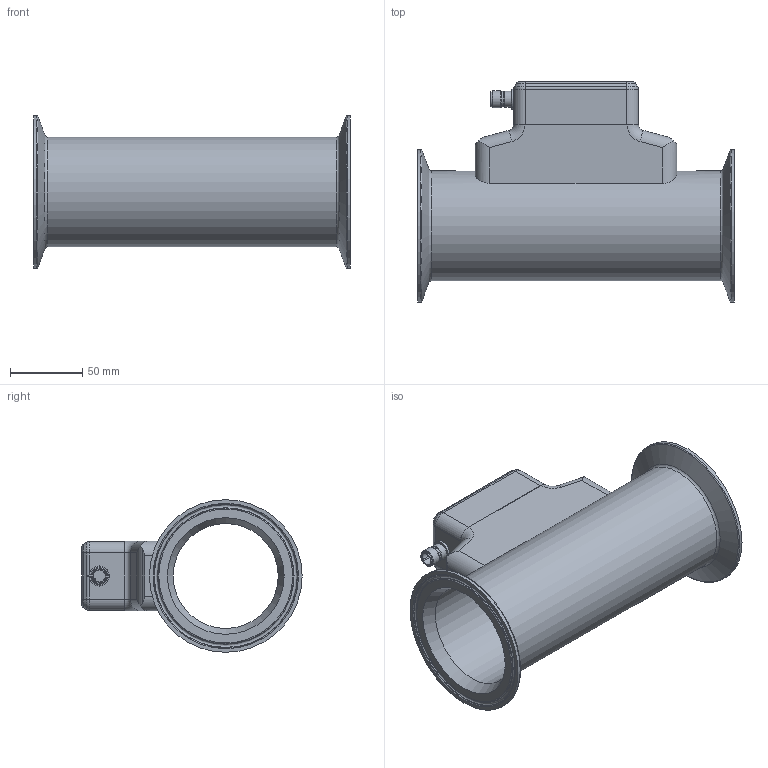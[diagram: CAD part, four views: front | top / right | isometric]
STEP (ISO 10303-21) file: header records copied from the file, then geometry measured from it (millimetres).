
FILE_DESCRIPTION(/* description */ ('STEP AP203'),/* implementation_level */ '2;1');
FILE_NAME(/* name */ 'P_MZ_300_0419',/* time_stamp */ '2025-05-05T09:17:47+02:00',/* author */ ('License CC BY-ND 4.0'),/* organization */ ('CADENAS'),/* preprocessor_version */ 'ST-DEVELOPER v19.3',/* originating_system */ 'PARTsolutions',/* authorisation */ ' ');
FILE_SCHEMA (('CONFIG_CONTROL_DESIGN'));
Length unit declared in the file: millimetre
Products named in the file (1): P_MZ_300_0419
Bounding box: 220 x 152.88 x 106 mm (x, y, z)
Volume: 457051.2 mm3; surface area: 138377.9 mm2
Topology: 1 solids, 1 shells, 107 faces, 237 edges, 139 vertices
Faces by surface type: cylinder 36, plane 29, torus 25, cone 16, bspline 1
Full cylindrical faces by diameter (mm): 8.45 x1, 10.55 x1, 10.8 x1, 11.3 x1, 12 x1, 14 x1, 72.9 x1, 76.2 x1, 106 x2
Entity records: 3546 total; most frequent: CARTESIAN_POINT 523, DIRECTION 504, ORIENTED_EDGE 400, AXIS2_PLACEMENT_3D 214, EDGE_CURVE 200, EDGE_LOOP 151, FACE_BOUND 151, VERTEX_POINT 137
